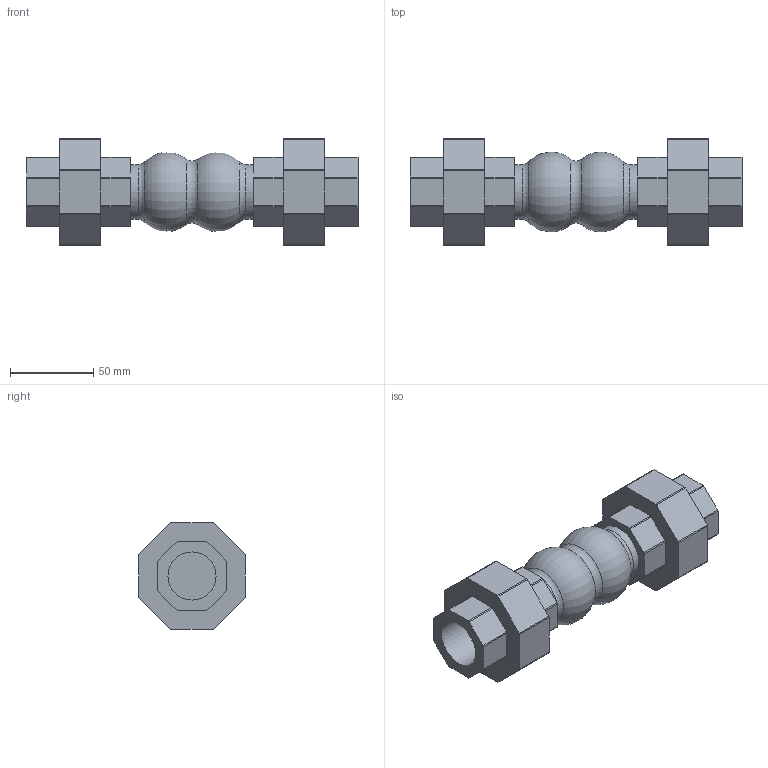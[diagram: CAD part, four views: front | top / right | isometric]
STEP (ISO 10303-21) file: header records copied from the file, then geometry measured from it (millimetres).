
FILE_DESCRIPTION(('STEP AP203'), '1');
FILE_NAME('3D_505-025-16_1', '', ('UNSPECIFIED'), ('UNSPECIFIED'), 'C3D Converter', 'C3D Toolkit', '');
FILE_SCHEMA(('CONFIG_CONTROL_DESIGN'));
Length unit declared in the file: millimetre
Bounding box: 200 x 64 x 64 mm (x, y, z)
Volume: 356902.7 mm3; surface area: 47175.6 mm2
Topology: 1 solids, 1 shells, 115 faces, 317 edges, 212 vertices
Faces by surface type: plane 58, cylinder 52, torus 5
Full cylindrical faces by diameter (mm): 29 x2, 33 x2
Entity records: 4613 total; most frequent: DIRECTION 656, CARTESIAN_POINT 636, ORIENTED_EDGE 616, EDGE_CURVE 308, AXIS2_PLACEMENT_3D 232, VERTEX_POINT 212, LINE 192, VECTOR 192
